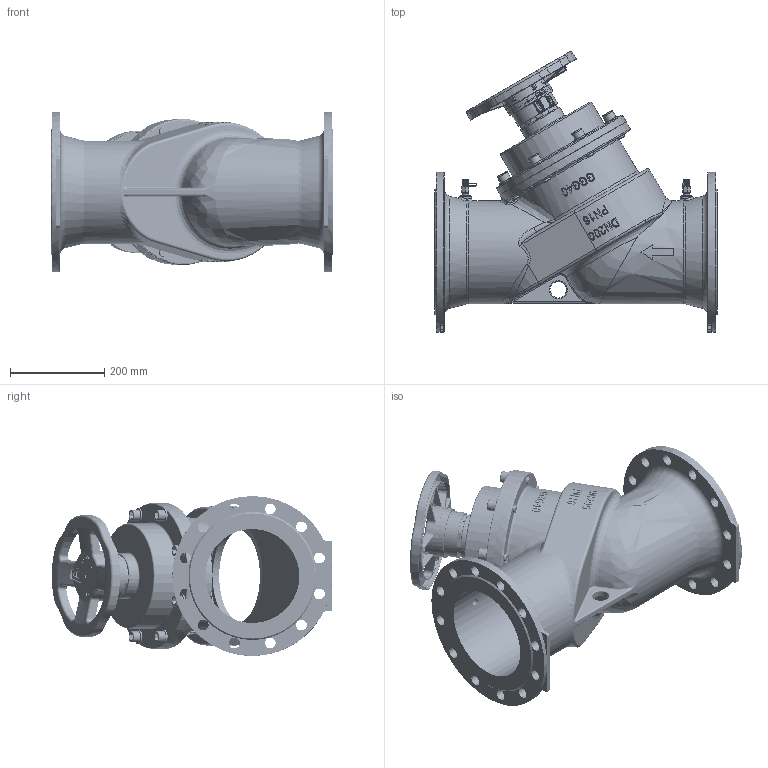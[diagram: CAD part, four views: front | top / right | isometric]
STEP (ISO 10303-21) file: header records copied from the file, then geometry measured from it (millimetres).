
FILE_DESCRIPTION(/* description */ ('STEP AP203'),/* implementation_level */ '2;1');
FILE_NAME(/* name */ 'RSV55 DN200.stp',/* time_stamp */ '2024-09-17T15:05:09+07:00',/* author */ ('Eva'),/* organization */ ('MicroSoft'),/* preprocessor_version */ 'ST-DEVELOPER v20',/* originating_system */ 'Autodesk Inventor 2025',/* authorisation */ '');
FILE_SCHEMA (('AUTOMOTIVE_DESIGN { 1 0 10303 214 3 1 1 }'));
Products named in the file (15): DN200平衡阀装配体; DN200平衡阀阀体; DSSV200-0FP01-02平阀盖; plain washers--product grade c gb_GB_FASTENER_WASHER_SMWC 16; hexagon socket head cap screws gb1_GB_FASTENER_SCREWS_HSHCS M16X45-N; M0030DN300阀轴压块; TEST  NOZZLE; 修改HW260-00-双副本; HW260-01A; HW260-03; 修改HW260-02双副本-数字居中; HW260-06; 零件1; HW254-HXG32-08; HW254--05-去除圆角
Assembly tree (29 placements, depth 3):
  DN200平衡阀装配体
    DN200平衡阀阀体
    DSSV200-0FP01-02平阀盖
    plain washers--product grade c gb_GB_FASTENER_WASHER_SMWC 16  x8
    hexagon socket head cap screws gb1_GB_FASTENER_SCREWS_HSHCS M16X45-N  x8
    M0030DN300阀轴压块
    TEST  NOZZLE  x2
    修改HW260-00-双副本
      HW260-01A
      HW260-03
      修改HW260-02双副本-数字居中
      HW260-06
      零件1
      HW254-HXG32-08
      HW254--05-去除圆角
Bounding box: 600 x 596.61 x 340 mm (x, y, z)
Volume: 11198512.9 mm3; surface area: 2083768.8 mm2
Topology: 43 solids, 43 shells, 6155 faces, 15371 edges, 9570 vertices
Faces by surface type: plane 2505, cylinder 1392, bspline 1361, torus 682, sphere 116, cone 99
Full cylindrical faces by diameter (mm): 4 x2, 5.991 x2, 6 x2, 6.8 x4, 7 x1, 7.1 x1, 7.6 x2, 7.8 x2, 7.933 x2, 8 x1, 9 x4, 10.625 x14, 10.907 x4, 12 x19, 14 x3, 15 x2, 16 x16, 17.5 x8, 18 x8, 23 x24, 24 x8, 29 x1, 30 x9, 35 x1, 38.4 x1, 39 x1, 45 x1, 58 x1, 58.2 x1, 61 x1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
Entity records: 284262 total; most frequent: CARTESIAN_POINT 153778, ORIENTED_EDGE 28456, DIRECTION 24898, EDGE_CURVE 14228, AXIS2_PLACEMENT_3D 9150, VERTEX_POINT 8956, LINE 6598, VECTOR 6598
